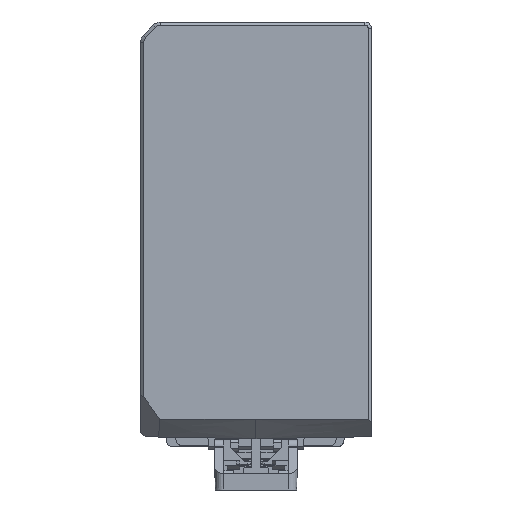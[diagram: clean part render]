
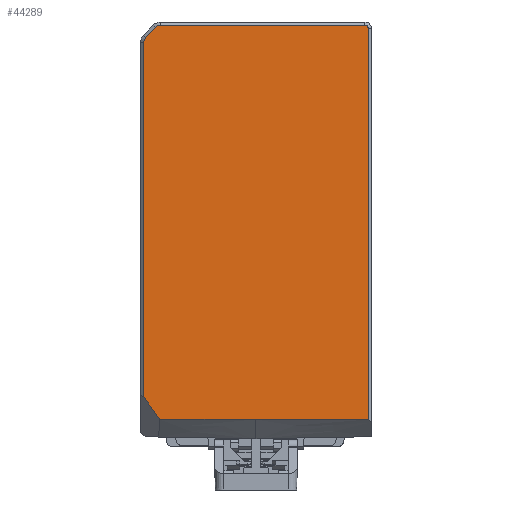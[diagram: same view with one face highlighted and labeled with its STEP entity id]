
A CAD part, front view. The second image highlights one B-rep face of the part: STEP entity #44289.
In plain terms, the highlighted planar face has unit normal (0, -1, 0).
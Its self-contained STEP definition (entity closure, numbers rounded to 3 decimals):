
#3538=CARTESIAN_POINT('',(-7.45,-40.5,-0.642));
#3539=DIRECTION('',(0.,1.,0.));
#3540=DIRECTION('',(-1.,0.,0.));
#3541=AXIS2_PLACEMENT_3D('',#3538,#3539,#3540);
#3543=DIRECTION('',(0.707,0.,0.707));
#3544=VECTOR('',#3543,2.251);
#3545=CARTESIAN_POINT('',(-8.192,-40.5,0.1));
#3546=LINE('',#3545,#3544);
#3547=CARTESIAN_POINT('',(-5.858,-40.5,0.95));
#3548=DIRECTION('',(0.,1.,0.));
#3549=DIRECTION('',(-0.707,0.,0.707));
#3550=AXIS2_PLACEMENT_3D('',#3547,#3548,#3549);
#3552=CARTESIAN_POINT('',(26.,-40.5,1.5));
#3553=DIRECTION('',(0.,1.,0.));
#3554=DIRECTION('',(0.,0.,1.));
#3555=AXIS2_PLACEMENT_3D('',#3552,#3553,#3554);
#3557=DIRECTION('',(-1.,0.,0.));
#3558=VECTOR('',#3557,14.873);
#3559=CARTESIAN_POINT('',(8.873,-40.5,-59.5));
#3560=LINE('',#3559,#3558);
#3561=DIRECTION('',(-0.577,0.,0.816));
#3562=VECTOR('',#3561,4.33);
#3563=CARTESIAN_POINT('',(-6.,-40.5,-59.5));
#3564=LINE('',#3563,#3562);
#3565=DIRECTION('',(0.,0.,-1.));
#3566=VECTOR('',#3565,55.322);
#3567=CARTESIAN_POINT('',(-8.5,-40.5,-0.642));
#3568=LINE('',#3567,#3566);
#3895=DIRECTION('',(1.,0.,0.));
#3896=VECTOR('',#3895,17.627);
#3897=CARTESIAN_POINT('',(8.873,-40.5,-59.5));
#3898=LINE('',#3897,#3896);
#3921=DIRECTION('',(0.,0.,1.));
#3922=VECTOR('',#3921,61.);
#3923=CARTESIAN_POINT('',(26.5,-40.5,-59.5));
#3924=LINE('',#3923,#3922);
#3942=DIRECTION('',(-1.,0.,0.));
#3943=VECTOR('',#3942,31.858);
#3944=CARTESIAN_POINT('',(26.,-40.5,2.));
#3945=LINE('',#3944,#3943);
#34351=CARTESIAN_POINT('',(8.873,-40.5,-59.5));
#34352=CARTESIAN_POINT('',(-6.,-40.5,-59.5));
#34353=VERTEX_POINT('',#34351);
#34354=VERTEX_POINT('',#34352);
#34355=CARTESIAN_POINT('',(-8.5,-40.5,-55.964));
#34356=VERTEX_POINT('',#34355);
#34357=CARTESIAN_POINT('',(-8.5,-40.5,-0.642));
#34358=VERTEX_POINT('',#34357);
#34359=CARTESIAN_POINT('',(-8.192,-40.5,0.1));
#34360=VERTEX_POINT('',#34359);
#34361=CARTESIAN_POINT('',(-6.601,-40.5,
1.692));
#34362=VERTEX_POINT('',#34361);
#34363=CARTESIAN_POINT('',(-5.858,-40.5,2.));
#34364=VERTEX_POINT('',#34363);
#34365=CARTESIAN_POINT('',(26.,-40.5,
2.));
#34366=VERTEX_POINT('',#34365);
#34367=CARTESIAN_POINT('',(26.5,-40.5,1.5));
#34368=VERTEX_POINT('',#34367);
#34393=CARTESIAN_POINT('',(26.5,-40.5,-59.5));
#34394=VERTEX_POINT('',#34393);
#44264=CARTESIAN_POINT('',(9.,-40.5,-28.75));
#44265=DIRECTION('',(0.,1.,0.));
#44266=DIRECTION('',(0.,0.,-1.));
#44267=AXIS2_PLACEMENT_3D('',#44264,#44265,#44266);
#44268=PLANE('',#44267);
#44270=ORIENTED_EDGE('',*,*,#44269,.F.);
#44272=ORIENTED_EDGE('',*,*,#44271,.T.);
#44274=ORIENTED_EDGE('',*,*,#44273,.T.);
#44276=ORIENTED_EDGE('',*,*,#44275,.T.);
#44278=ORIENTED_EDGE('',*,*,#44277,.F.);
#44280=ORIENTED_EDGE('',*,*,#44279,.T.);
#44282=ORIENTED_EDGE('',*,*,#44281,.F.);
#44284=ORIENTED_EDGE('',*,*,#44283,.F.);
#44285=ORIENTED_EDGE('',*,*,#44237,.T.);
#44286=ORIENTED_EDGE('',*,*,#44251,.T.);
#44287=EDGE_LOOP('',(#44270,#44272,#44274,#44276,#44278,#44280,#44282,#44284,
#44285,#44286));
#44288=FACE_OUTER_BOUND('',#44287,.F.);
#44289=ADVANCED_FACE('',(#44288),#44268,.F.);
#3542=CIRCLE('',#3541,1.05);
#3551=CIRCLE('',#3550,1.05);
#3556=CIRCLE('',#3555,0.5);
#44237=EDGE_CURVE('',#34353,#34354,#3560,.T.);
#44251=EDGE_CURVE('',#34354,#34356,#3564,.T.);
#44269=EDGE_CURVE('',#34358,#34356,#3568,.T.);
#44271=EDGE_CURVE('',#34358,#34360,#3542,.T.);
#44273=EDGE_CURVE('',#34360,#34362,#3546,.T.);
#44275=EDGE_CURVE('',#34362,#34364,#3551,.T.);
#44277=EDGE_CURVE('',#34366,#34364,#3945,.T.);
#44279=EDGE_CURVE('',#34366,#34368,#3556,.T.);
#44281=EDGE_CURVE('',#34394,#34368,#3924,.T.);
#44283=EDGE_CURVE('',#34353,#34394,#3898,.T.);
